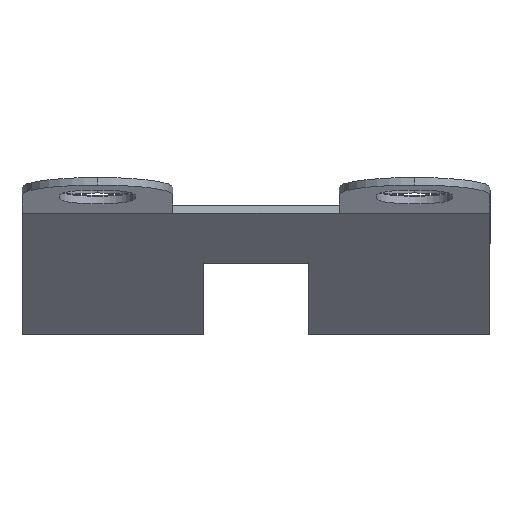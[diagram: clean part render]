
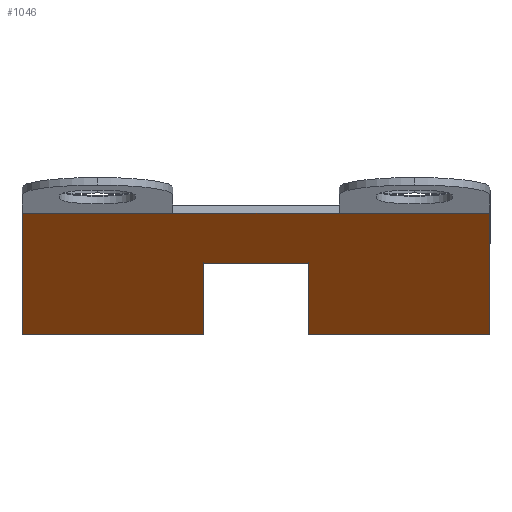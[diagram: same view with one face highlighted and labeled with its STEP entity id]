
A CAD part, front view. The second image highlights one B-rep face of the part: STEP entity #1046.
In plain terms, the highlighted planar face has unit normal (0, -0.383, -0.924) as drawn and (-0.383, 0, -0.924) by its records, which use the part's own axes.
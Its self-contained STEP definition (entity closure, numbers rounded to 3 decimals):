
#715=CARTESIAN_POINT('',(-11.309,3.,-0.092));
#716=VERTEX_POINT('',#715);
#717=CARTESIAN_POINT('',(-11.309,-4.,-0.092));
#718=VERTEX_POINT('',#717);
#719=CARTESIAN_POINT('',(-11.309,3.,-0.092));
#720=DIRECTION('',(0.0,-1.0,0.0));
#721=VECTOR('',#720,7.0);
#722=LINE('',#719,#721);
#723=EDGE_CURVE('',#716,#718,#722,.T.);
#773=CARTESIAN_POINT('',(0.,-4.0,-4.777));
#774=VERTEX_POINT('',#773);
#781=CARTESIAN_POINT('',(-11.309,-4.,-0.092));
#782=DIRECTION('',(0.924,0.,-0.383));
#783=VECTOR('',#782,12.241);
#784=LINE('',#781,#783);
#785=EDGE_CURVE('',#718,#774,#784,.T.);
#905=CARTESIAN_POINT('',(0.,3.0,-4.777));
#906=VERTEX_POINT('',#905);
#922=CARTESIAN_POINT('',(0.,3.0,-4.777));
#923=DIRECTION('',(-0.924,0.,0.383));
#924=VECTOR('',#923,12.241);
#925=LINE('',#922,#924);
#926=EDGE_CURVE('',#906,#716,#925,.T.);
#982=CARTESIAN_POINT('',(0.,15.0,-4.777));
#983=DIRECTION('',(-0.383,0.,-0.924));
#984=DIRECTION('',(-0.924,0.0,0.383));
#985=AXIS2_PLACEMENT_3D('',#982,#983,#984);
#986=PLANE('',#985);
#987=ORIENTED_EDGE('',*,*,#785,.T.);
#988=CARTESIAN_POINT('',(0.,-16.,-4.777));
#989=VERTEX_POINT('',#988);
#990=CARTESIAN_POINT('',(0.,-4.0,-4.777));
#991=DIRECTION('',(0.0,-1.0,0.0));
#992=VECTOR('',#991,12.);
#993=LINE('',#990,#992);
#994=EDGE_CURVE('',#774,#989,#993,.T.);
#995=ORIENTED_EDGE('',*,*,#994,.T.);
#996=CARTESIAN_POINT('',(-19.424,-16.,3.269));
#997=VERTEX_POINT('',#996);
#998=CARTESIAN_POINT('',(0.,-16.,-4.777));
#999=DIRECTION('',(-0.924,0.,0.383));
#1000=VECTOR('',#999,21.024);
#1001=LINE('',#998,#1000);
#1002=EDGE_CURVE('',#989,#997,#1001,.T.);
#1003=ORIENTED_EDGE('',*,*,#1002,.T.);
#1004=CARTESIAN_POINT('',(-19.424,-6.,3.269));
#1005=VERTEX_POINT('',#1004);
#1006=CARTESIAN_POINT('',(-19.424,-6.,3.269));
#1007=DIRECTION('',(0.,-1.0,0.));
#1008=VECTOR('',#1007,10.);
#1009=LINE('',#1006,#1008);
#1010=EDGE_CURVE('',#1005,#997,#1009,.T.);
#1011=ORIENTED_EDGE('',*,*,#1010,.F.);
#1012=CARTESIAN_POINT('',(-19.424,5.,3.269));
#1013=VERTEX_POINT('',#1012);
#1014=CARTESIAN_POINT('',(-19.424,5.,3.269));
#1015=DIRECTION('',(0.0,-1.0,0.0));
#1016=VECTOR('',#1015,11.0);
#1017=LINE('',#1014,#1016);
#1018=EDGE_CURVE('',#1013,#1005,#1017,.T.);
#1019=ORIENTED_EDGE('',*,*,#1018,.F.);
#1020=CARTESIAN_POINT('',(-19.424,15.,3.269));
#1021=VERTEX_POINT('',#1020);
#1022=CARTESIAN_POINT('',(-19.424,15.,3.269));
#1023=DIRECTION('',(0.,-1.0,0.));
#1024=VECTOR('',#1023,10.);
#1025=LINE('',#1022,#1024);
#1026=EDGE_CURVE('',#1021,#1013,#1025,.T.);
#1027=ORIENTED_EDGE('',*,*,#1026,.F.);
#1028=CARTESIAN_POINT('',(0.,15.0,-4.777));
#1029=VERTEX_POINT('',#1028);
#1030=CARTESIAN_POINT('',(-19.424,15.,3.269));
#1031=DIRECTION('',(0.924,0.,-0.383));
#1032=VECTOR('',#1031,21.024);
#1033=LINE('',#1030,#1032);
#1034=EDGE_CURVE('',#1021,#1029,#1033,.T.);
#1035=ORIENTED_EDGE('',*,*,#1034,.T.);
#1036=CARTESIAN_POINT('',(0.,15.0,-4.777));
#1037=DIRECTION('',(0.0,-1.0,0.0));
#1038=VECTOR('',#1037,12.0);
#1039=LINE('',#1036,#1038);
#1040=EDGE_CURVE('',#1029,#906,#1039,.T.);
#1041=ORIENTED_EDGE('',*,*,#1040,.T.);
#1042=ORIENTED_EDGE('',*,*,#926,.T.);
#1043=ORIENTED_EDGE('',*,*,#723,.T.);
#1044=EDGE_LOOP('',(#987,#995,#1003,#1011,#1019,#1027,#1035,#1041,#1042,#1043));
#1045=FACE_OUTER_BOUND('',#1044,.T.);
#1046=ADVANCED_FACE('',(#1045),#986,.T.);
